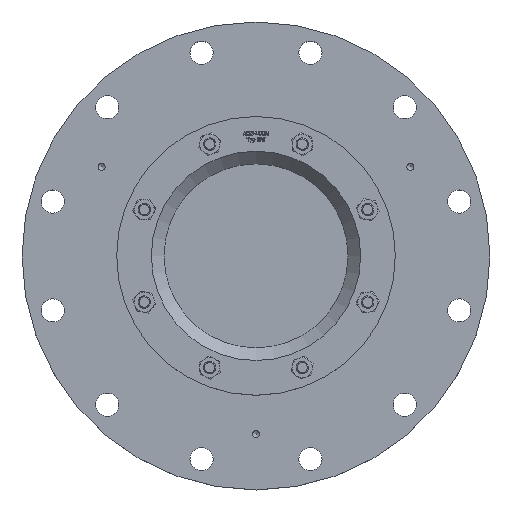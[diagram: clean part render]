
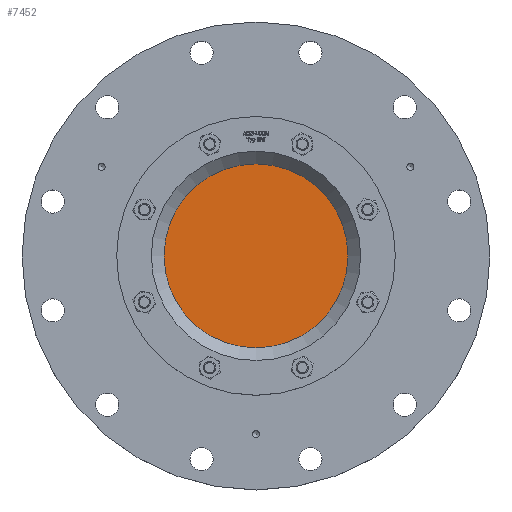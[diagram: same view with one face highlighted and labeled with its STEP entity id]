
A CAD part, top view. The second image highlights one B-rep face of the part: STEP entity #7452.
In plain terms, the highlighted planar face has unit normal (0, 0, 1).
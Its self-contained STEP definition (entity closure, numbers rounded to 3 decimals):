
#1759=FACE_OUTER_BOUND('',#2212,.T.);
#2212=EDGE_LOOP('',(#4698));
#2769=CIRCLE('',#7909,87.5);
#2935=VERTEX_POINT('',#9911);
#3635=EDGE_CURVE('',#2935,#2935,#2769,.T.);
#4698=ORIENTED_EDGE('',*,*,#3635,.F.);
#6812=PLANE('',#7908);
#7452=ADVANCED_FACE('',(#1759),#6812,.F.);
#7908=AXIS2_PLACEMENT_3D('',#9910,#8423,#8424);
#7909=AXIS2_PLACEMENT_3D('',#9912,#8425,#8426);
#8423=DIRECTION('center_axis',(0.,0.,-1.));
#8424=DIRECTION('ref_axis',(-1.,0.,0.));
#8425=DIRECTION('center_axis',(0.,0.,-1.));
#8426=DIRECTION('ref_axis',(-1.,0.,0.));
#9910=CARTESIAN_POINT('Origin',(0.,0.,66.));
#9911=CARTESIAN_POINT('',(87.5,0.,66.));
#9912=CARTESIAN_POINT('Origin',(0.,0.,66.));
